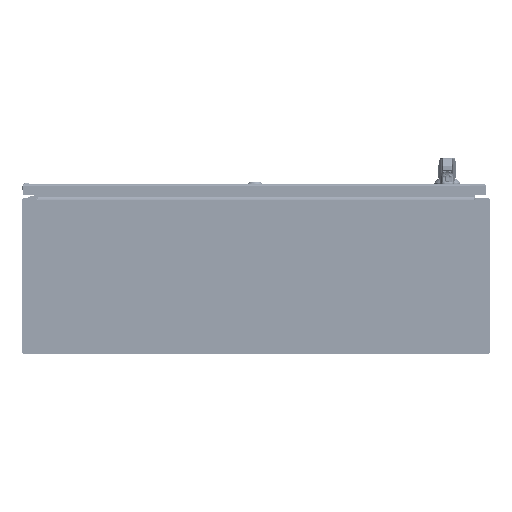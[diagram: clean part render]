
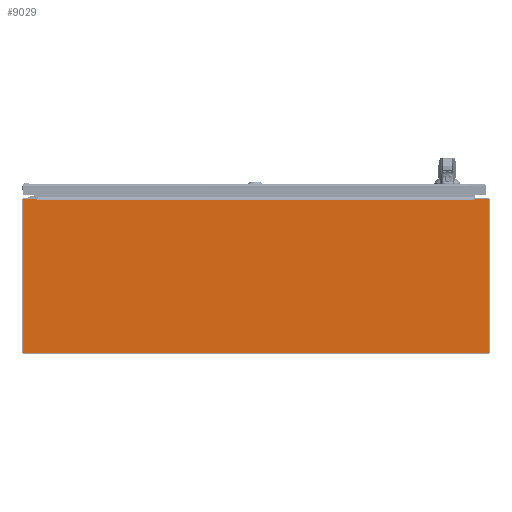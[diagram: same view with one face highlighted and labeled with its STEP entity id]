
A CAD part, front view. The second image highlights one B-rep face of the part: STEP entity #9029.
In plain terms, the highlighted planar face has unit normal (0, -1, 0) as drawn and (0, 1, 0) by its records, which use the part's own axes.
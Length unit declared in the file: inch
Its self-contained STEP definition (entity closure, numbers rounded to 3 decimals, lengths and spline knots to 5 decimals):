
#7812=CARTESIAN_POINT('',(17.857,0.,5.857));
#7813=DIRECTION('',(0.,1.,0.));
#7814=DIRECTION('',(0.,0.,1.));
#7815=AXIS2_PLACEMENT_3D('',#7812,#7813,#7814);
#7820=DIRECTION('',(1.,0.,0.));
#7821=VECTOR('',#7820,1.02894);
#7822=CARTESIAN_POINT('',(16.82806,0.,5.937));
#7823=LINE('',#7822,#7821);
#7827=DIRECTION('',(-0.174,0.,-0.985));
#7828=VECTOR('',#7827,0.08326);
#7829=CARTESIAN_POINT('',(16.82806,0.,5.937));
#7830=LINE('',#7829,#7828);
#7834=DIRECTION('',(1.,0.,0.));
#7835=VECTOR('',#7834,0.0156);
#7836=CARTESIAN_POINT('',(16.798,0.,5.855));
#7837=LINE('',#7836,#7835);
#7841=DIRECTION('',(-1.,0.,0.));
#7842=VECTOR('',#7841,0.0156);
#7843=CARTESIAN_POINT('',(-16.798,0.,5.855));
#7844=LINE('',#7843,#7842);
#7848=DIRECTION('',(0.174,0.,-0.985));
#7849=VECTOR('',#7848,0.08326);
#7850=CARTESIAN_POINT('',(-16.82806,0.,5.937));
#7851=LINE('',#7850,#7849);
#7855=DIRECTION('',(1.,0.,0.));
#7856=VECTOR('',#7855,1.02894);
#7857=CARTESIAN_POINT('',(-17.857,0.,5.937));
#7858=LINE('',#7857,#7856);
#7862=CARTESIAN_POINT('',(-17.857,0.,5.857));
#7863=DIRECTION('',(0.,1.,0.));
#7864=DIRECTION('',(-1.,0.,0.));
#7865=AXIS2_PLACEMENT_3D('',#7862,#7863,#7864);
#7870=DIRECTION('',(0.,0.,1.));
#7871=VECTOR('',#7870,11.714);
#7872=CARTESIAN_POINT('',(-17.937,0.,-5.857));
#7873=LINE('',#7872,#7871);
#7877=CARTESIAN_POINT('',(-17.857,0.,-5.857));
#7878=DIRECTION('',(0.,1.,0.));
#7879=DIRECTION('',(0.,0.,-1.));
#7880=AXIS2_PLACEMENT_3D('',#7877,#7878,#7879);
#7885=DIRECTION('',(-1.,0.,0.));
#7886=VECTOR('',#7885,35.714);
#7887=CARTESIAN_POINT('',(17.857,0.,-5.937));
#7888=LINE('',#7887,#7886);
#7892=CARTESIAN_POINT('',(17.857,0.,-5.857));
#7893=DIRECTION('',(0.,1.,0.));
#7894=DIRECTION('',(1.,0.,0.));
#7895=AXIS2_PLACEMENT_3D('',#7892,#7893,#7894);
#7900=DIRECTION('',(0.,0.,-1.));
#7901=VECTOR('',#7900,11.714);
#7902=CARTESIAN_POINT('',(17.937,0.,5.857));
#7903=LINE('',#7902,#7901);
#8181=DIRECTION('',(-1.,0.,0.));
#8182=VECTOR('',#8181,33.596);
#8183=CARTESIAN_POINT('',(16.798,0.,5.855));
#8184=LINE('',#8183,#8182);
#8842=CARTESIAN_POINT('',(-16.798,0.,5.855));
#8843=CARTESIAN_POINT('',(-16.8136,0.,5.855));
#8844=VERTEX_POINT('',#8842);
#8845=VERTEX_POINT('',#8843);
#8846=CARTESIAN_POINT('',(-16.82806,0.,5.937));
#8847=VERTEX_POINT('',#8846);
#8854=CARTESIAN_POINT('',(16.798,0.,5.855));
#8855=CARTESIAN_POINT('',(16.8136,0.,5.855));
#8856=VERTEX_POINT('',#8854);
#8857=VERTEX_POINT('',#8855);
#8858=CARTESIAN_POINT('',(16.82806,0.,5.937));
#8859=VERTEX_POINT('',#8858);
#8922=CARTESIAN_POINT('',(17.857,0.,5.937));
#8923=CARTESIAN_POINT('',(17.937,0.,5.857));
#8924=VERTEX_POINT('',#8922);
#8925=VERTEX_POINT('',#8923);
#8930=CARTESIAN_POINT('',(17.937,0.,-5.857));
#8931=CARTESIAN_POINT('',(17.857,0.,-5.937));
#8932=VERTEX_POINT('',#8930);
#8933=VERTEX_POINT('',#8931);
#8938=CARTESIAN_POINT('',(-17.857,0.,-5.937));
#8939=CARTESIAN_POINT('',(-17.937,0.,-5.857));
#8940=VERTEX_POINT('',#8938);
#8941=VERTEX_POINT('',#8939);
#8946=CARTESIAN_POINT('',(-17.937,0.,5.857));
#8947=CARTESIAN_POINT('',(-17.857,0.,5.937));
#8948=VERTEX_POINT('',#8946);
#8949=VERTEX_POINT('',#8947);
#8994=CARTESIAN_POINT('',(0.,0.,0.));
#8995=DIRECTION('',(0.,1.,0.));
#8996=DIRECTION('',(1.,0.,0.));
#8997=AXIS2_PLACEMENT_3D('',#8994,#8995,#8996);
#8998=PLANE('',#8997);
#9000=ORIENTED_EDGE('',*,*,#8999,.F.);
#9002=ORIENTED_EDGE('',*,*,#9001,.F.);
#9004=ORIENTED_EDGE('',*,*,#9003,.T.);
#9006=ORIENTED_EDGE('',*,*,#9005,.F.);
#9008=ORIENTED_EDGE('',*,*,#9007,.T.);
#9010=ORIENTED_EDGE('',*,*,#9009,.T.);
#9012=ORIENTED_EDGE('',*,*,#9011,.F.);
#9014=ORIENTED_EDGE('',*,*,#9013,.F.);
#9016=ORIENTED_EDGE('',*,*,#9015,.F.);
#9018=ORIENTED_EDGE('',*,*,#9017,.F.);
#9020=ORIENTED_EDGE('',*,*,#9019,.F.);
#9022=ORIENTED_EDGE('',*,*,#9021,.F.);
#9024=ORIENTED_EDGE('',*,*,#9023,.F.);
#9026=ORIENTED_EDGE('',*,*,#9025,.F.);
#9027=EDGE_LOOP('',(#9000,#9002,#9004,#9006,#9008,#9010,#9012,#9014,#9016,#9018,
#9020,#9022,#9024,#9026));
#9028=FACE_OUTER_BOUND('',#9027,.F.);
#7816=CIRCLE('',#7815,0.08);
#7866=CIRCLE('',#7865,0.08);
#7881=CIRCLE('',#7880,0.08);
#7896=CIRCLE('',#7895,0.08);
#8999=EDGE_CURVE('',#8924,#8925,#7816,.T.);
#9001=EDGE_CURVE('',#8859,#8924,#7823,.T.);
#9003=EDGE_CURVE('',#8859,#8857,#7830,.T.);
#9005=EDGE_CURVE('',#8856,#8857,#7837,.T.);
#9007=EDGE_CURVE('',#8856,#8844,#8184,.T.);
#9009=EDGE_CURVE('',#8844,#8845,#7844,.T.);
#9011=EDGE_CURVE('',#8847,#8845,#7851,.T.);
#9013=EDGE_CURVE('',#8949,#8847,#7858,.T.);
#9015=EDGE_CURVE('',#8948,#8949,#7866,.T.);
#9017=EDGE_CURVE('',#8941,#8948,#7873,.T.);
#9019=EDGE_CURVE('',#8940,#8941,#7881,.T.);
#9021=EDGE_CURVE('',#8933,#8940,#7888,.T.);
#9023=EDGE_CURVE('',#8932,#8933,#7896,.T.);
#9025=EDGE_CURVE('',#8925,#8932,#7903,.T.);
#9029=ADVANCED_FACE('',(#9028),#8998,.T.);
